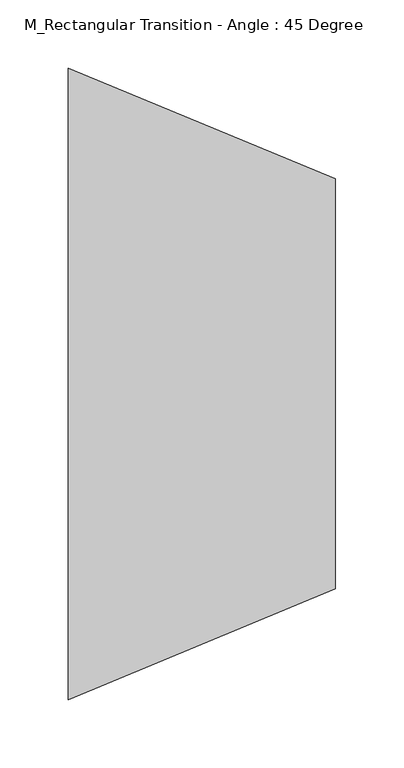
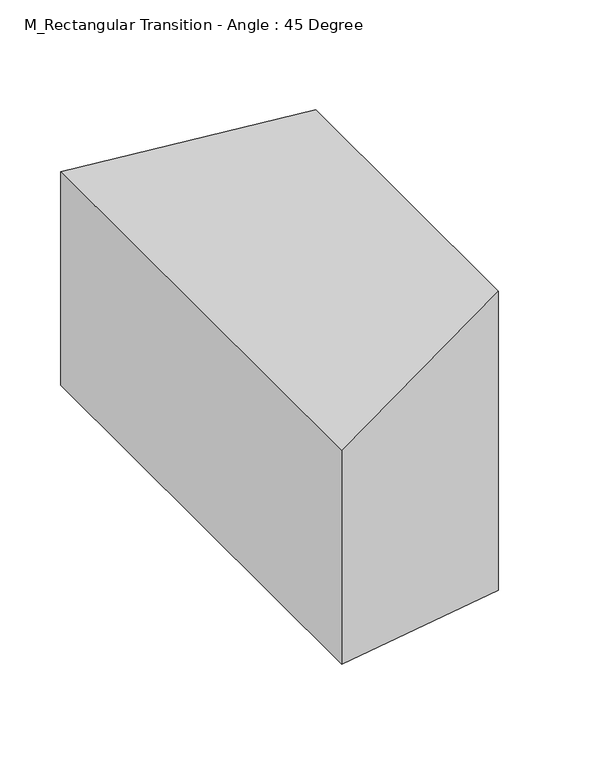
"""IFC4 building model written with IfcOpenShell, lengths in millimetres: duct fitting geometry, M_Rectangular Transition - Angle : 45 Degree."""

from ifc_helpers import new_model, si_unit, origin, place, context, project, spatial, faceted_brep, source, transform, mapped, element, save


def m_rectangular_transition_angle_45_degree_6e5ad010(model_context):
    return source(origin(), model_context, "Body", "Brep", [
        faceted_brep([(195.4004102, -150.0, 150.0), (195.4004102, -150.0, -150.0), (195.4004102, 150.0, -150.0), (195.4004102, 150.0, 150.0), (0.0, -230.9375, 107.15), (0.0, 230.9375, 107.15), (0.0, 230.9375, -107.15), (0.0, -230.9375, -107.15)], [[[0, 1, 2, 3]], [[4, 5, 6, 7]], [[4, 7, 1, 0]], [[7, 6, 2, 1]], [[6, 5, 3, 2]], [[5, 4, 0, 3]]]),
    ])


if __name__ == "__main__":
    model = new_model("IFC4")
    model_context = context("Model", 3, world=origin())
    ifc_project = project(units=[si_unit("LENGTHUNIT", "METRE", prefix="MILLI")], contexts=[model_context])
    site = spatial("IfcSite", under=ifc_project)
    building = spatial("IfcBuilding", under=site)
    placement = place(None, origin())
    m_rectangular_transition_angle_45_degree_shape = m_rectangular_transition_angle_45_degree_6e5ad010(model_context)
    element("IfcDuctFitting", 1, ObjectType="M_Rectangular Transition - Angle : 45 Degree", at=placement, inside=building, context=model_context, shape_type="MappedRepresentation", body=[
        mapped(m_rectangular_transition_angle_45_degree_shape, transform((0.0, 0.0, 0.0), x_axis=(1.0, 0.0, 0.0), y_axis=(0.0, 1.0, 0.0), z_axis=(0.0, 0.0, 1.0))),
    ])
    save(model, "model.ifc")
